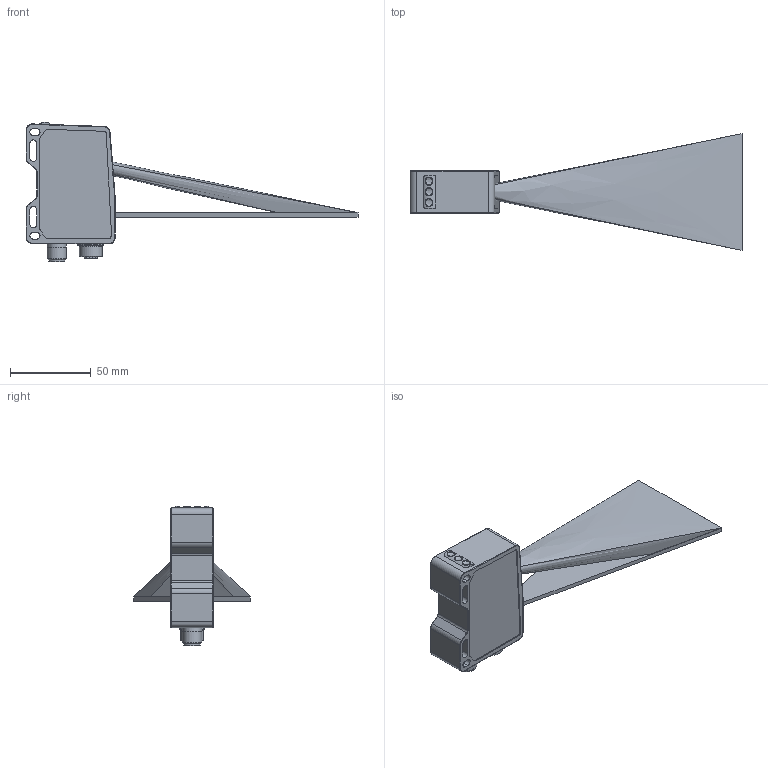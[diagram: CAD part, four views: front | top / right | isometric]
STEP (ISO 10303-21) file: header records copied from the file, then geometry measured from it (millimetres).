
FILE_DESCRIPTION( ( 'Unknown' ), '1' );
FILE_NAME( 'X:/SolidEdge/Models/Dokumentationen/Opto/Ox700/Laserlinie/Vereinfachte Modelle/Neutralformate/OXH7-xxxx.EK_MB100-0150_B072_OB08.stp', 'Unknown', ( 'Unknown' ), ( 'Unknown' ), 'PSStep 19.0.9', 'Unknown', ' ' );
FILE_SCHEMA( ( 'AUTOMOTIVE_DESIGN { 1 0 10303 214 1 1 1 1 }' ) );
Length unit declared in the file: millimetre
Products named in the file (4): Assem1; OXH7-xxxxx.xxxxxx.EK_ohnePfeil; MB100-0150_B072_OB08
Assembly tree (3 placements, depth 2):
  Assem1
    OXH7-xxxxx.xxxxxx.EK_ohnePfeil
    MB100-0150_B072_OB08
    MB100-0150_B072_OB08
Bounding box: 205 x 72 x 85.93 mm (x, y, z)
Volume: 150400.3 mm3; surface area: 47672.5 mm2
Topology: 3 solids, 3 shells, 397 faces, 1082 edges, 710 vertices
Faces by surface type: plane 221, cylinder 106, torus 24, bspline 19, cone 19, sphere 8
Full cylindrical faces by diameter (mm): 0.8 x8, 1.05 x4, 1.1 x1, 7.5 x1, 8.2 x1, 8.4 x1, 8.9 x1, 9.05 x1, 9.4 x1, 9.55 x1, 10.05 x1, 11.7 x1, 12 x2, 14 x1, 16 x1
Entity records: 21223 total; most frequent: CARTESIAN_POINT 8369, ORIENTED_EDGE 1972, DIRECTION 1928, EDGE_CURVE 986, VERTEX_POINT 677, LINE 660, VECTOR 660, AXIS2_PLACEMENT_3D 634
